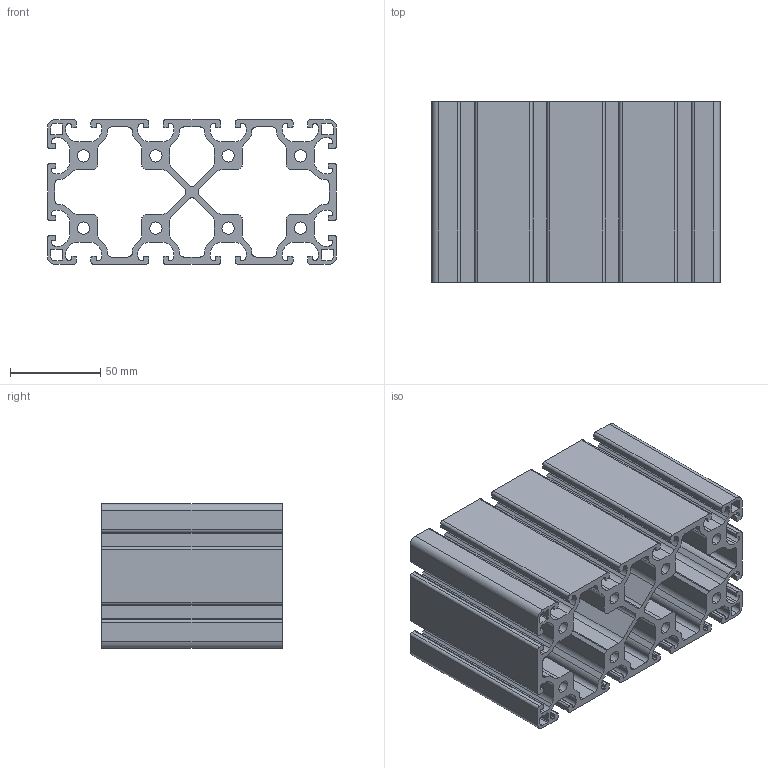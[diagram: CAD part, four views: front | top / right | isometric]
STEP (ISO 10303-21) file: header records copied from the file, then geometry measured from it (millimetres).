
FILE_DESCRIPTION (( 'STEP AP203' ), '1' );
FILE_NAME ('0108P16080L.STEP', '2024-02-28T08:07:14', ( 'Windows-Benutzer' ), ( '' ), 'SwSTEP 2.0', 'SolidWorks 2023', '' );
FILE_SCHEMA (( 'CONFIG_CONTROL_DESIGN' ));
Length unit declared in the file: millimetre
Products named in the file (1): 0108P16080L
Bounding box: 160 x 100 x 80 mm (x, y, z)
Volume: 380132.9 mm3; surface area: 205715.7 mm2
Topology: 1 solids, 1 shells, 523 faces, 1563 edges, 1042 vertices
Faces by surface type: cylinder 281, plane 242
Entity records: 17920 total; most frequent: DIRECTION 3173, CARTESIAN_POINT 3129, ORIENTED_EDGE 3126, EDGE_CURVE 1563, AXIS2_PLACEMENT_3D 1086, VERTEX_POINT 1042, VECTOR 1001, LINE 1001
